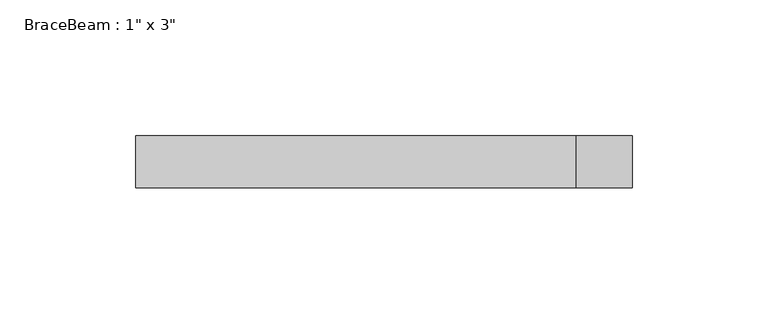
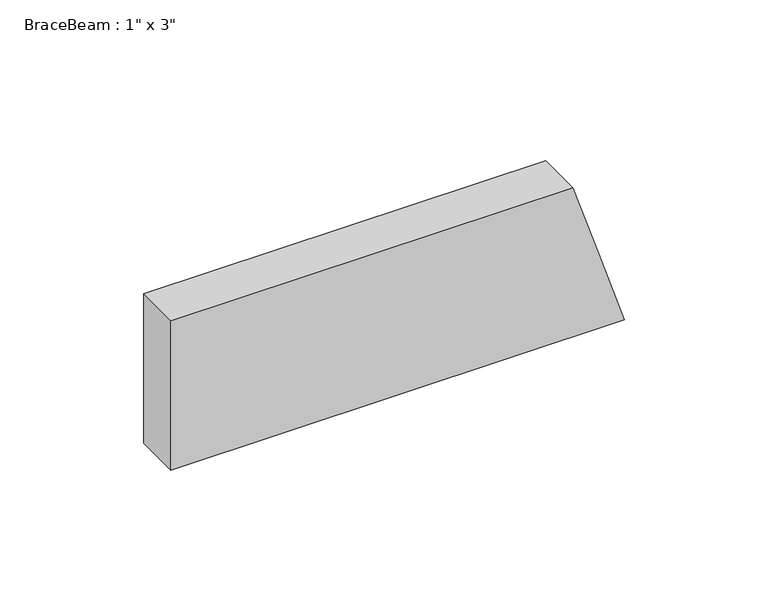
"""IFC4 building model written with IfcOpenShell, lengths in millimetres: beam geometry."""

from ifc_helpers import new_model, si_unit, origin, place, context, project, spatial, faceted_brep, source, transform, mapped, element, save


def beam_51437148(model_context):
    return source(origin(), model_context, "Body", "Brep", [
        faceted_brep([(-86.8985703, -9.525, -31.75), (-86.8985703, 9.525, -31.75), (95.6130478, 9.525, -31.75), (95.6130478, -9.525, -31.75), (-86.8985703, 9.525, 31.75), (74.8873533, 9.525, 31.75), (85.2502006, 9.525, 0.0), (-86.8985703, -9.525, 31.75), (74.8873533, -9.525, 31.75), (85.2502006, -9.525, 0.0)], [[[0, 1, 2, 3]], [[1, 4, 5, 6, 2]], [[4, 7, 8, 5]], [[7, 0, 3, 9, 8]], [[7, 4, 1, 0]], [[5, 8, 9, 3, 2, 6]]]),
    ])


if __name__ == "__main__":
    model = new_model("IFC4")
    model_context = context("Model", 3, world=origin())
    ifc_project = project(units=[si_unit("LENGTHUNIT", "METRE", prefix="MILLI")], contexts=[model_context])
    site = spatial("IfcSite", under=ifc_project)
    building = spatial("IfcBuilding", under=site)
    placement = place(None, origin())
    beam_shape = beam_51437148(model_context)
    element("IfcBeam", 1, ObjectType="BraceBeam : 1\" x 3\"", at=placement, inside=building, context=model_context, shape_type="MappedRepresentation", body=[
        mapped(beam_shape, transform((0.0, 0.0, 0.0), x_axis=(1.0, 0.0, 0.0), y_axis=(0.0, 1.0, 0.0), z_axis=(0.0, 0.0, 1.0))),
    ])
    save(model, "model.ifc")
